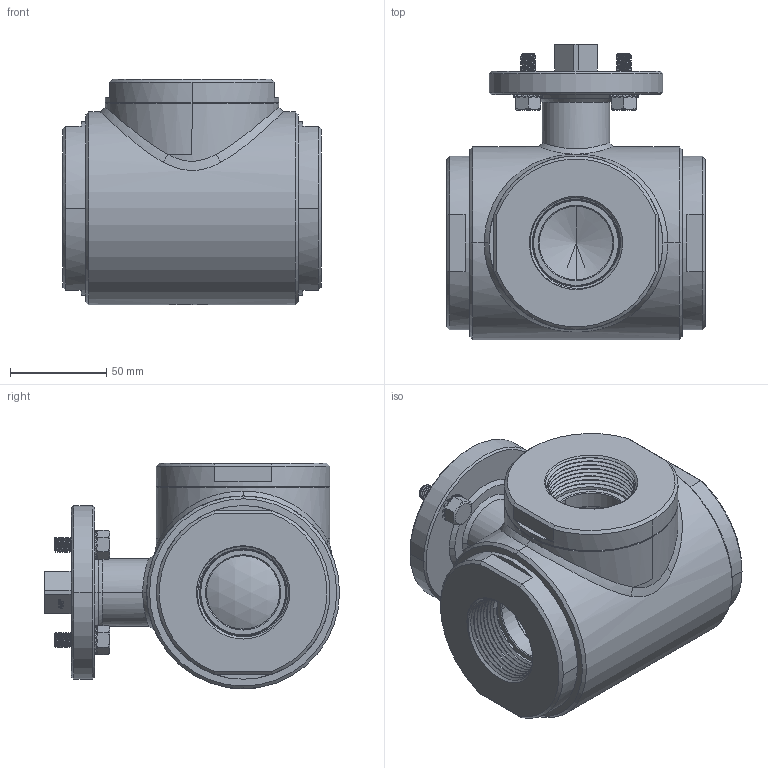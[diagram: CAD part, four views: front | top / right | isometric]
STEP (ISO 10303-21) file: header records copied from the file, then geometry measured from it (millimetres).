
FILE_DESCRIPTION((''),'2;1');
FILE_NAME('3130046341F','2024-09-18T14:53:19',('alfio.taboni'),('CDM Tecnoconsulting'),'CREO PARAMETRIC BY PTC INC, 2023374','CREO PARAMETRIC BY PTC INC, 2023374','');
FILE_SCHEMA(('CONFIG_CONTROL_DESIGN','SHAPE_APPEARANCE_LAYERS_GROUPS'));
Products named in the file (1): 3130046341F
Bounding box: 134 x 153 x 117 mm (x, y, z)
Volume: 903490 mm3; surface area: 203181.7 mm2
Topology: 1 solids, 1 shells, 1620 faces, 4425 edges, 2860 vertices
Faces by surface type: plane 555, cylinder 471, cone 261, bspline 146, extrusion 110, torus 74, sphere 3
Entity records: 134954 total; most frequent: CARTESIAN_POINT 81695, ORIENTED_EDGE 8830, DIRECTION 6497, PRESENTATION_STYLE_ASSIGNMENT 4725, STYLED_ITEM 4471, CURVE_STYLE 4470, EDGE_CURVE 4415, VERTEX_POINT 2860
